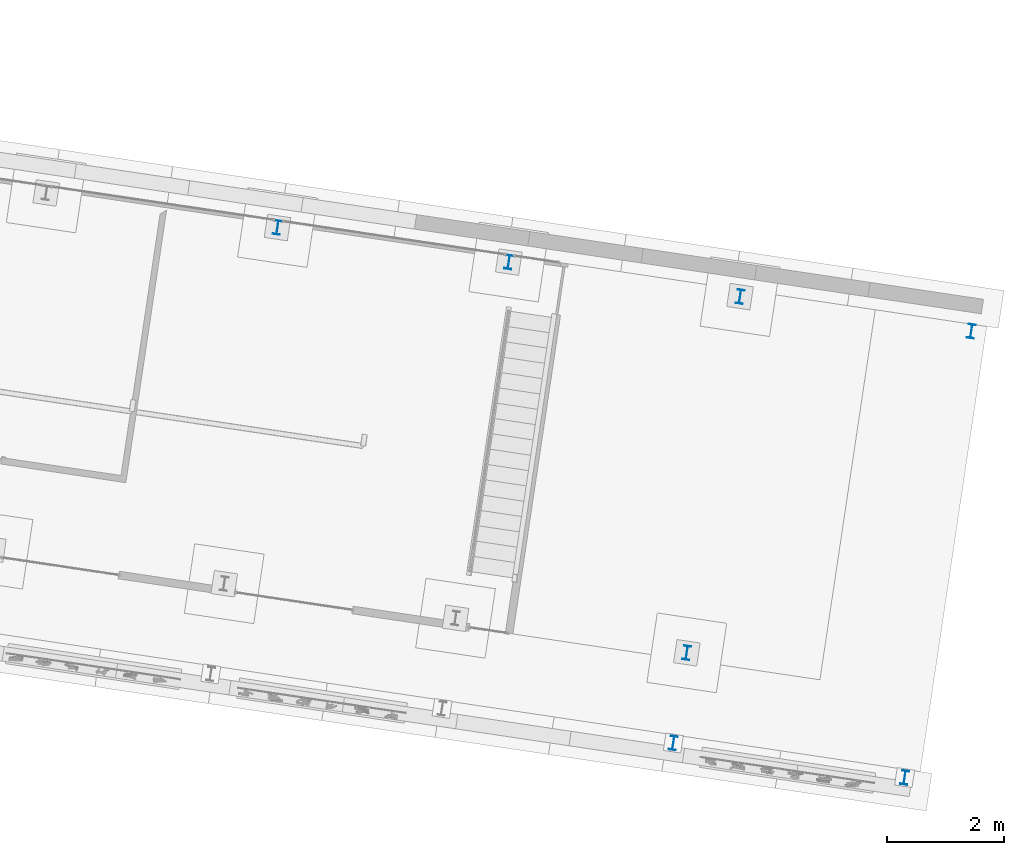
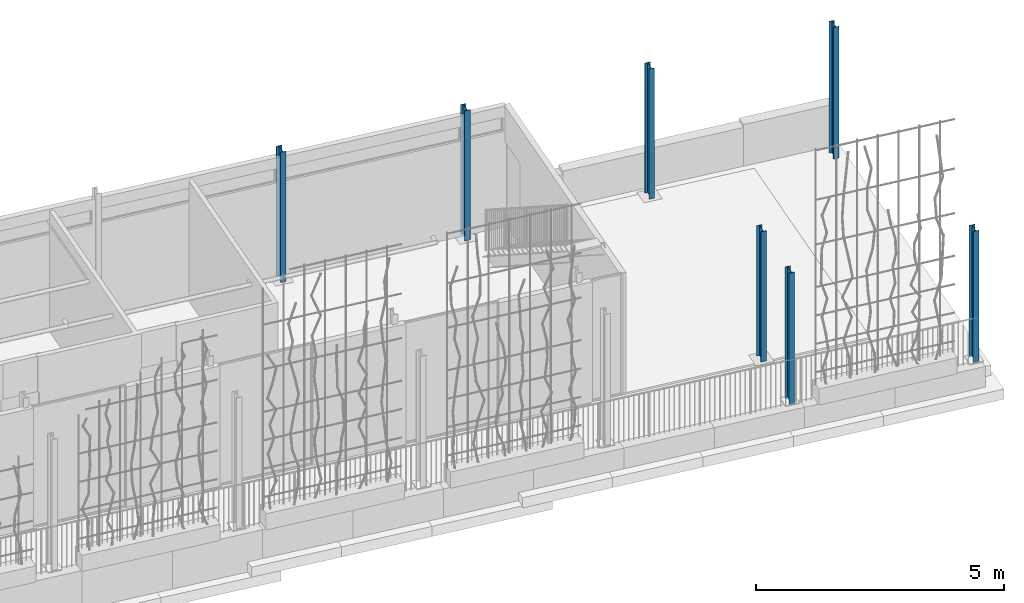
# One storey, part 4 of 142: 7 columns.
"""IFC4 building model written with IfcOpenShell, lengths in metres."""

from ifc_helpers import new_model, si_unit, direction, frame, origin_with_axes, place, context, subcontext, project, spatial, i_section, extrude, material, material_profile, profile_set, profile_usage, type_object, element, save


model = new_model("IFC4")

# Units and contexts
model_context = context("Model", 3, precision=1e-05, world=origin_with_axes(), true_north=direction((0.0, 1.0)))
body_context = subcontext(model_context, "Body", "Model", "MODEL_VIEW")
ifc_project = project(units=[si_unit("VOLUMEUNIT", "CUBIC_METRE"), si_unit("LENGTHUNIT", "METRE"), si_unit("AREAUNIT", "SQUARE_METRE")], contexts=[model_context])

# Site, building, storey
site_placement = place(None, origin_with_axes())
site = spatial("IfcSite", under=ifc_project, at=site_placement, Name="Lares · Rua das Mercês · artigo 4771")
building_placement = place(site_placement, frame((12.0, 10.2, 13.9), z_axis=(0.0, 0.0, 1.0), x_axis=(0.989015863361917, -0.147809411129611, 0.0)))
building = spatial("IfcBuilding", under=site, at=building_placement, Name="Casa Sobreposta")
storey_placement = place(building_placement, origin_with_axes())
storey = spatial("IfcBuildingStorey", under=building, at=storey_placement, Name="00 · Habitação e estacionamento", Elevation=13.9)

# Columns
ifc_material = material(Name="Aço pintado / Stahl lackiert", Category="steel")
ifc_material_profile = material_profile(ifc_material, i_section(OverallWidth=0.12, OverallDepth=0.24, WebThickness=0.0062, FlangeThickness=0.0098))
ifc_profile_set = profile_set([ifc_material_profile], Name="IPE240")
ifc_profile_usage_1 = profile_usage(ifc_profile_set)
column_type = type_object("IfcColumnType", Name="IPE240 / steel", PredefinedType="NOTDEFINED", material=ifc_profile_set)
column_1_placement = place(storey_placement, frame((20.0, 6.28, 0.0), z_axis=(0.0, 0.0, 1.0), x_axis=(1.0, 0.0, 0.0)))
element("IfcColumn", 1, at=column_1_placement, inside=storey, type_object=column_type, material=ifc_profile_usage_1, Name="Pilar 6B · IPE240", context=body_context, shape_type="SweptSolid", body=[
    extrude(i_section(OverallWidth=0.12, OverallDepth=0.24, WebThickness=0.0062, FlangeThickness=0.0098), origin_with_axes(), (0.0, 0.0, 1.0), 3.208),
])
ifc_profile_usage_2 = profile_usage(ifc_profile_set)
column_2_placement = place(storey_placement, frame((24.0, 6.28, 0.0), z_axis=(0.0, 0.0, 1.0), x_axis=(1.0, 0.0, 0.0)))
element("IfcColumn", 2, at=column_2_placement, inside=storey, type_object=column_type, material=ifc_profile_usage_2, Name="Pilar 7B · IPE240", context=body_context, shape_type="SweptSolid", body=[
    extrude(i_section(OverallWidth=0.12, OverallDepth=0.24, WebThickness=0.0062, FlangeThickness=0.0098), origin_with_axes(), (0.0, 0.0, 1.0), 3.208),
])
ifc_profile_usage_3 = profile_usage(ifc_profile_set)
column_3_placement = place(storey_placement, frame((28.0, 0.12, 0.0), z_axis=(0.0, 0.0, 1.0), x_axis=(1.0, 0.0, 0.0)))
element("IfcColumn", 3, at=column_3_placement, inside=storey, type_object=column_type, material=ifc_profile_usage_3, Name="Pilar 8A · IPE240", context=body_context, shape_type="SweptSolid", body=[
    extrude(i_section(OverallWidth=0.12, OverallDepth=0.24, WebThickness=0.0062, FlangeThickness=0.0098), origin_with_axes(), (0.0, 0.0, 1.0), 3.208),
])
ifc_profile_usage_4 = profile_usage(ifc_profile_set)
column_4_placement = place(storey_placement, frame((28.0, 6.28, 0.0), z_axis=(0.0, 0.0, 1.0), x_axis=(1.0, 0.0, 0.0)))
element("IfcColumn", 4, at=column_4_placement, inside=storey, type_object=column_type, material=ifc_profile_usage_4, Name="Pilar 8B · IPE240", context=body_context, shape_type="SweptSolid", body=[
    extrude(i_section(OverallWidth=0.12, OverallDepth=0.24, WebThickness=0.0062, FlangeThickness=0.0098), origin_with_axes(), (0.0, 0.0, 1.0), 3.208),
])
ifc_profile_usage_5 = profile_usage(ifc_profile_set)
column_5_placement = place(storey_placement, frame((28.0, -1.44, -0.04), z_axis=(0.0, 0.0, 1.0), x_axis=(1.0, 0.0, 0.0)))
element("IfcColumn", 5, at=column_5_placement, inside=storey, type_object=column_type, material=ifc_profile_usage_5, Name="Projeção estufa · pilar sul ao pódio", context=body_context, shape_type="SweptSolid", body=[
    extrude(i_section(OverallWidth=0.12, OverallDepth=0.24, WebThickness=0.0062, FlangeThickness=0.0098), origin_with_axes(), (0.0, 0.0, 1.0), 3.248),
])
ifc_profile_usage_6 = profile_usage(ifc_profile_set)
column_6_placement = place(storey_placement, frame((32.0, -1.44, -0.04), z_axis=(0.0, 0.0, 1.0), x_axis=(1.0, 0.0, 0.0)))
element("IfcColumn", 6, at=column_6_placement, inside=storey, type_object=column_type, material=ifc_profile_usage_6, Name="Projeção estufa · pilar sul ao pódio", context=body_context, shape_type="SweptSolid", body=[
    extrude(i_section(OverallWidth=0.12, OverallDepth=0.24, WebThickness=0.0062, FlangeThickness=0.0098), origin_with_axes(), (0.0, 0.0, 1.0), 3.248),
])
ifc_profile_usage_7 = profile_usage(ifc_profile_set)
column_7_placement = place(storey_placement, frame((32.0, 6.28, -0.04), z_axis=(0.0, 0.0, 1.0), x_axis=(1.0, 0.0, 0.0)))
element("IfcColumn", 7, at=column_7_placement, inside=storey, type_object=column_type, material=ifc_profile_usage_7, Name="Projeção estufa · pilar nascente norte", context=body_context, shape_type="SweptSolid", body=[
    extrude(i_section(OverallWidth=0.12, OverallDepth=0.24, WebThickness=0.0062, FlangeThickness=0.0098), origin_with_axes(), (0.0, 0.0, 1.0), 3.248),
])

save(model, "model.ifc")
